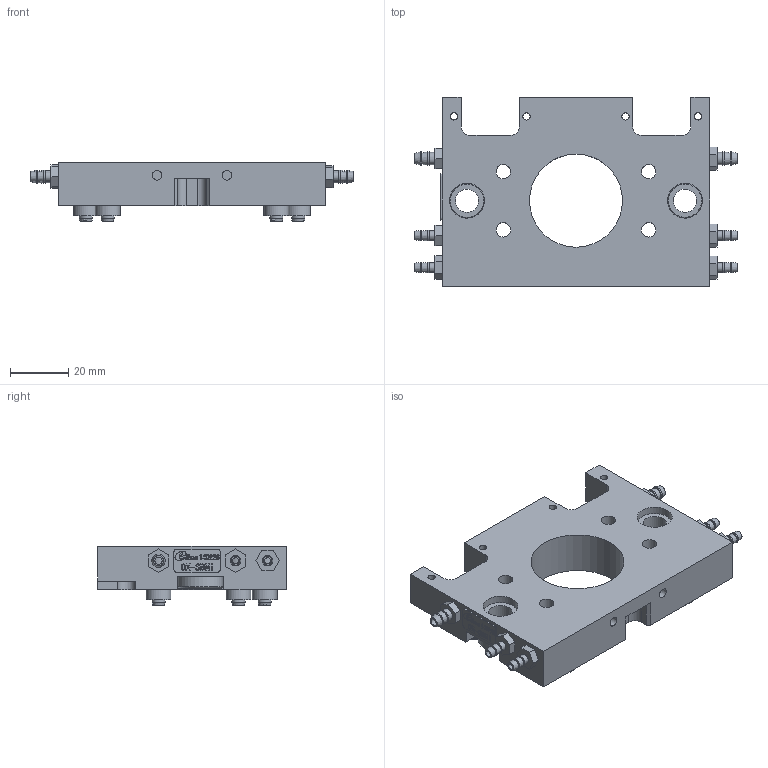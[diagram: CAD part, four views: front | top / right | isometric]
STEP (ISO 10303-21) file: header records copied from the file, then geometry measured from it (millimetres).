
FILE_DESCRIPTION (( 'STEP AP203' ), '1' );
FILE_NAME ('OX-SBNI.STEP', '2019-08-10T01:05:53', ( '' ), ( '' ), 'SwSTEP 2.0', 'SolidWorks 2018', '' );
FILE_SCHEMA (( 'CONFIG_CONTROL_DESIGN' ));
Length unit declared in the file: millimetre
Products named in the file (2): OX-SBNI
Bounding box: 111 x 65 x 20.5 mm (x, y, z)
Volume: 65481.8 mm3; surface area: 25595.3 mm2
Topology: 10 solids, 10 shells, 1157 faces, 3126 edges, 2070 vertices
Faces by surface type: plane 884, bspline 118, cylinder 105, cone 48, torus 2
Full cylindrical faces by diameter (mm): 2.1 x4, 2.5 x12, 3.2 x4, 3.3 x2, 3.6 x8, 4 x6, 4.2 x8, 4.5 x6, 4.6 x4, 5 x10, 8 x2, 8.5 x6, 10 x4, 12 x4, 15.5 x2, 32 x1
Entity records: 39768 total; most frequent: CARTESIAN_POINT 11738, ORIENTED_EDGE 5950, DIRECTION 5067, EDGE_CURVE 2975, VECTOR 2429, LINE 2429, VERTEX_POINT 2038, EDGE_LOOP 1395
